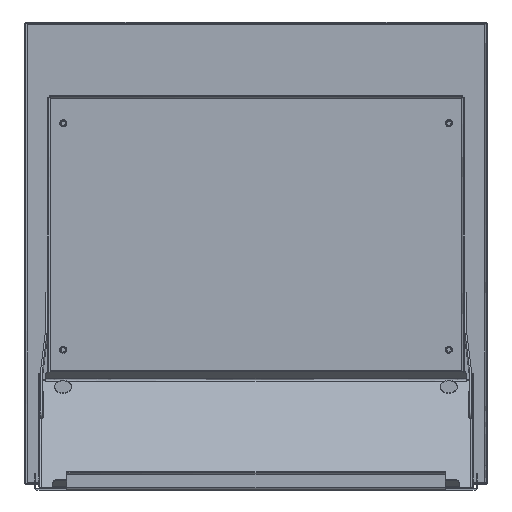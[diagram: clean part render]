
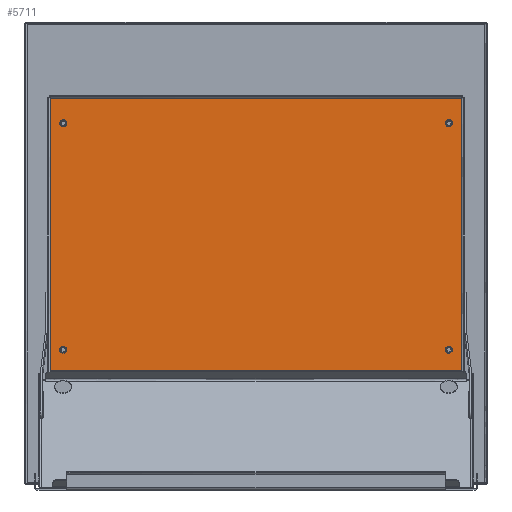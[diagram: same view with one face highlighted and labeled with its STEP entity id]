
A CAD part, front view. The second image highlights one B-rep face of the part: STEP entity #5711.
In plain terms, the highlighted free-form (B-spline) face has degree [1, 1] with [2, 2] control points.
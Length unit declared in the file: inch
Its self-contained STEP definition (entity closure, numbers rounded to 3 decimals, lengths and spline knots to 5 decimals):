
#5172=CARTESIAN_POINT('V42',(-10.6715,-0.054,
   0.141));
#5173=VERTEX_POINT('V42',#5172);
#5369=CARTESIAN_POINT('V48',(10.6715,-0.054,
   14.359));
#5370=VERTEX_POINT('V48',#5369);
#5416=CARTESIAN_POINT('V76',(-9.8125,-0.054,
   1.429));
#5417=VERTEX_POINT('V76',#5416);
#5423=CARTESIAN_POINT('E98',(-9.8125,-0.054,
   1.429));
#5424=CARTESIAN_POINT('E98',(-9.8125,-0.054,
   1.10424));
#5425=CARTESIAN_POINT('E98',(-10.09375,-0.054,
   1.26662));
#5426=CARTESIAN_POINT('E98',(-10.375,-0.054,
   1.429));
#5427=CARTESIAN_POINT('E98',(-10.09375,-0.054,
   1.59138));
#5428=CARTESIAN_POINT('E98',(-9.8125,-0.054,
   1.75376));
#5429=CARTESIAN_POINT('E98',(-9.8125,-0.054,
   1.429));
#5437=(BOUNDED_CURVE()B_SPLINE_CURVE(2,(#5423,#5424,#5425,#5426,
   #5427,#5428,#5429),.CIRCULAR_ARC.,.T.,.U.)
   B_SPLINE_CURVE_WITH_KNOTS((3,2,2,3),(0.0,0.33333,
   0.66667,1.0),.UNSPECIFIED.)CURVE()
   GEOMETRIC_REPRESENTATION_ITEM()RATIONAL_B_SPLINE_CURVE((1.0,
   0.5,1.0,0.5,1.0,0.5,1.0)
   )REPRESENTATION_ITEM('E98'));
#5438=EDGE_CURVE('E98',#5417,#5417,#5437,.T.);
#5485=CARTESIAN_POINT('V75',(-9.8125,-0.054,
   13.179));
#5486=VERTEX_POINT('V75',#5485);
#5492=CARTESIAN_POINT('E97',(-9.8125,-0.054,
   13.179));
#5493=CARTESIAN_POINT('E97',(-9.8125,-0.054,
   12.85424));
#5494=CARTESIAN_POINT('E97',(-10.09375,-0.054,
   13.01662));
#5495=CARTESIAN_POINT('E97',(-10.375,-0.054,
   13.179));
#5496=CARTESIAN_POINT('E97',(-10.09375,-0.054,
   13.34138));
#5497=CARTESIAN_POINT('E97',(-9.8125,-0.054,
   13.50376));
#5498=CARTESIAN_POINT('E97',(-9.8125,-0.054,
   13.179));
#5506=(BOUNDED_CURVE()B_SPLINE_CURVE(2,(#5492,#5493,#5494,#5495,
   #5496,#5497,#5498),.CIRCULAR_ARC.,.T.,.U.)
   B_SPLINE_CURVE_WITH_KNOTS((3,2,2,3),(0.0,0.33333,
   0.66667,1.0),.UNSPECIFIED.)CURVE()
   GEOMETRIC_REPRESENTATION_ITEM()RATIONAL_B_SPLINE_CURVE((1.0,
   0.5,1.0,0.5,1.0,0.5,1.0)
   )REPRESENTATION_ITEM('E97'));
#5507=EDGE_CURVE('E97',#5486,#5486,#5506,.T.);
#5554=CARTESIAN_POINT('V74',(10.1875,-0.054,
   13.179));
#5555=VERTEX_POINT('V74',#5554);
#5561=CARTESIAN_POINT('E96',(10.1875,-0.054,
   13.179));
#5562=CARTESIAN_POINT('E96',(10.1875,-0.054,
   12.85424));
#5563=CARTESIAN_POINT('E96',(9.90625,-0.054,
   13.01662));
#5564=CARTESIAN_POINT('E96',(9.625,-0.054,
   13.179));
#5565=CARTESIAN_POINT('E96',(9.90625,-0.054,
   13.34138));
#5566=CARTESIAN_POINT('E96',(10.1875,-0.054,
   13.50376));
#5567=CARTESIAN_POINT('E96',(10.1875,-0.054,
   13.179));
#5575=(BOUNDED_CURVE()B_SPLINE_CURVE(2,(#5561,#5562,#5563,#5564,
   #5565,#5566,#5567),.CIRCULAR_ARC.,.T.,.U.)
   B_SPLINE_CURVE_WITH_KNOTS((3,2,2,3),(0.0,0.33333,
   0.66667,1.0),.UNSPECIFIED.)CURVE()
   GEOMETRIC_REPRESENTATION_ITEM()RATIONAL_B_SPLINE_CURVE((1.0,
   0.5,1.0,0.5,1.0,0.5,1.0)
   )REPRESENTATION_ITEM('E96'));
#5576=EDGE_CURVE('E96',#5555,#5555,#5575,.T.);
#5623=CARTESIAN_POINT('V73',(10.1875,-0.054,
   1.429));
#5624=VERTEX_POINT('V73',#5623);
#5630=CARTESIAN_POINT('E95',(10.1875,-0.054,
   1.429));
#5631=CARTESIAN_POINT('E95',(10.1875,-0.054,
   1.10424));
#5632=CARTESIAN_POINT('E95',(9.90625,-0.054,
   1.26662));
#5633=CARTESIAN_POINT('E95',(9.625,-0.054,
   1.429));
#5634=CARTESIAN_POINT('E95',(9.90625,-0.054,
   1.59138));
#5635=CARTESIAN_POINT('E95',(10.1875,-0.054,
   1.75376));
#5636=CARTESIAN_POINT('E95',(10.1875,-0.054,
   1.429));
#5644=(BOUNDED_CURVE()B_SPLINE_CURVE(2,(#5630,#5631,#5632,#5633,
   #5634,#5635,#5636),.CIRCULAR_ARC.,.T.,.U.)
   B_SPLINE_CURVE_WITH_KNOTS((3,2,2,3),(0.0,0.33333,
   0.66667,1.0),.UNSPECIFIED.)CURVE()
   GEOMETRIC_REPRESENTATION_ITEM()RATIONAL_B_SPLINE_CURVE((1.0,
   0.5,1.0,0.5,1.0,0.5,1.0)
   )REPRESENTATION_ITEM('E95'));
#5645=EDGE_CURVE('E95',#5624,#5624,#5644,.T.);
#5668=CARTESIAN_POINT('F27',(-10.6715,-0.054,
   0.141));
#5669=CARTESIAN_POINT('F27',(10.6715,-0.054,
   0.141));
#5670=CARTESIAN_POINT('F27',(-10.6715,-0.054,
   14.359));
#5671=CARTESIAN_POINT('F27',(10.6715,-0.054,
   14.359));
#5672=B_SPLINE_SURFACE_WITH_KNOTS('F27',1,1,((#5668,#5670),(#5669,
   #5671)),.PLANE_SURF.,.F.,.F.,.U.,(2,2),(2,2),(
   0.00008,1.50096),(0.00008,
   0.99992),.UNSPECIFIED.);
#5673=CARTESIAN_POINT('V43',(-10.6715,-0.054,
   14.359));
#5674=VERTEX_POINT('V43',#5673);
#5675=CARTESIAN_POINT('E74',(-10.6715,-0.054,
   14.359));
#5676=CARTESIAN_POINT('E74',(10.6715,-0.054,
   14.359));
#5677=QUASI_UNIFORM_CURVE('E74',1,(#5675,#5676),.POLYLINE_FORM.,.F.,
   .U.);
#5678=EDGE_CURVE('E74',#5674,#5370,#5677,.T.);
#5679=ORIENTED_EDGE('E74',*,*,#5678,.F.);
#5680=CARTESIAN_POINT('E56',(-10.6715,-0.054,
   0.141));
#5681=CARTESIAN_POINT('E56',(-10.6715,-0.054,
   14.359));
#5682=QUASI_UNIFORM_CURVE('E56',1,(#5680,#5681),.POLYLINE_FORM.,.F.,
   .U.);
#5683=EDGE_CURVE('E56',#5173,#5674,#5682,.T.);
#5684=ORIENTED_EDGE('E56',*,*,#5683,.F.);
#5685=CARTESIAN_POINT('V49',(10.6715,-0.054,
   0.141));
#5686=VERTEX_POINT('V49',#5685);
#5687=CARTESIAN_POINT('E66',(10.6715,-0.054,
   0.141));
#5688=CARTESIAN_POINT('E66',(-10.6715,-0.054,
   0.141));
#5689=QUASI_UNIFORM_CURVE('E66',1,(#5687,#5688),.POLYLINE_FORM.,.F.,
   .U.);
#5690=EDGE_CURVE('E66',#5686,#5173,#5689,.T.);
#5691=ORIENTED_EDGE('E66',*,*,#5690,.F.);
#5692=CARTESIAN_POINT('E62',(10.6715,-0.054,
   14.359));
#5693=CARTESIAN_POINT('E62',(10.6715,-0.054,
   0.141));
#5694=QUASI_UNIFORM_CURVE('E62',1,(#5692,#5693),.POLYLINE_FORM.,.F.,
   .U.);
#5695=EDGE_CURVE('E62',#5370,#5686,#5694,.T.);
#5696=ORIENTED_EDGE('E62',*,*,#5695,.F.);
#5697=EDGE_LOOP('F27',(#5679,#5684,#5691,#5696));
#5698=FACE_OUTER_BOUND('F27',#5697,.T.);
#5699=ORIENTED_EDGE('E95',*,*,#5645,.T.);
#5700=EDGE_LOOP('F27',(#5699));
#5701=FACE_BOUND('F27',#5700,.T.);
#5702=ORIENTED_EDGE('E96',*,*,#5576,.T.);
#5703=EDGE_LOOP('F27',(#5702));
#5704=FACE_BOUND('F27',#5703,.T.);
#5705=ORIENTED_EDGE('E97',*,*,#5507,.T.);
#5706=EDGE_LOOP('F27',(#5705));
#5707=FACE_BOUND('F27',#5706,.T.);
#5708=ORIENTED_EDGE('E98',*,*,#5438,.T.);
#5709=EDGE_LOOP('F27',(#5708));
#5710=FACE_BOUND('F27',#5709,.T.);
#5711=ADVANCED_FACE('F27',(#5698,#5701,#5704,#5707,#5710),#5672,.T.
   );
